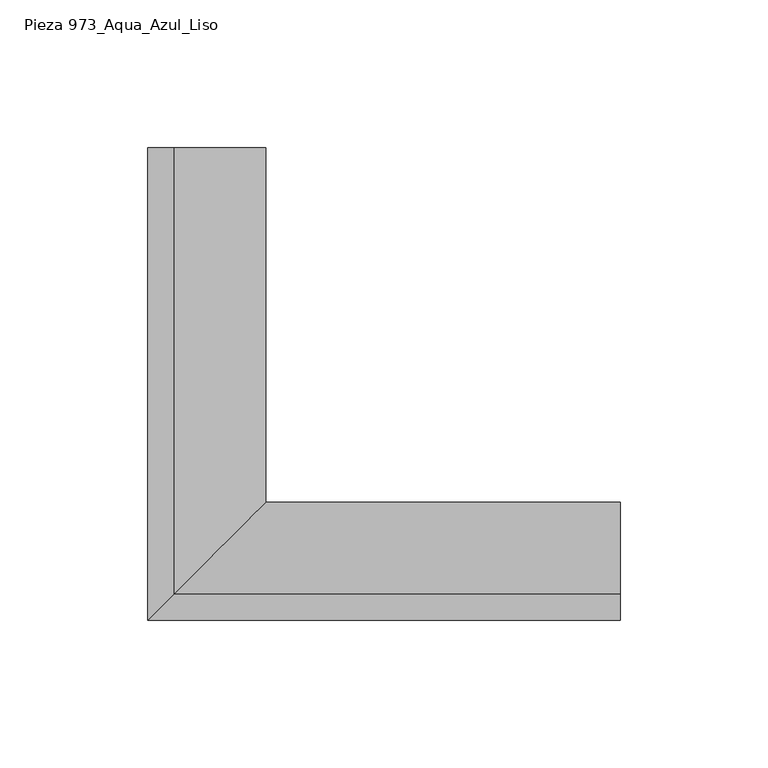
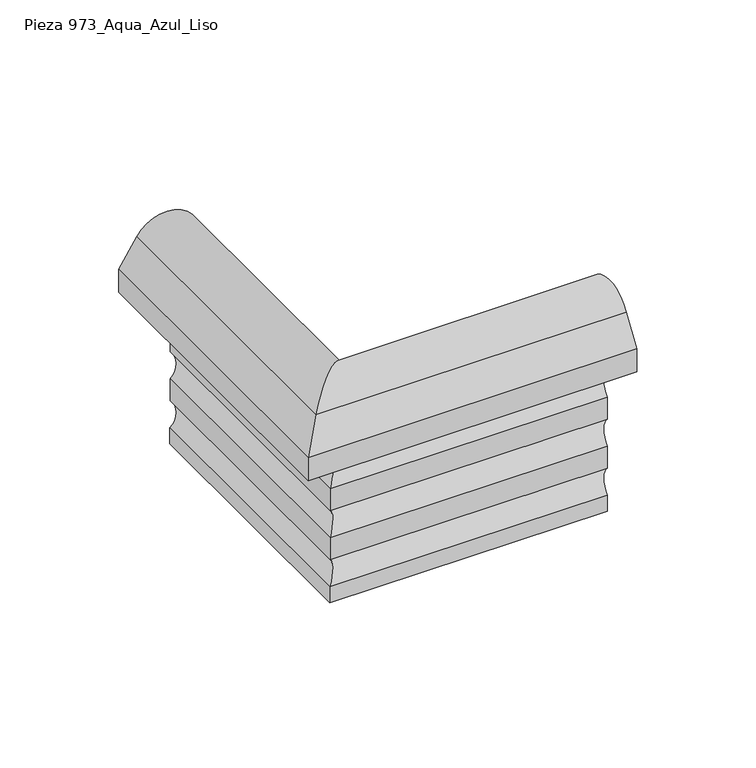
"""IFC4 building model written with IfcOpenShell, lengths in millimetres: proxy geometry, ROSA GRES_973 : Pieza 973_Aqua_Azul_Liso."""

from ifc_helpers import new_model, si_unit, frame, origin, place, context, project, spatial, polyline, circle_curve, ellipse_curve, source, transform, mapped, element, save
from ifc_brep_helpers import plane_surface, cylinder_surface, revolved_surface, advanced_brep


def pieza_973_aqua_azul_liso_c06e4f9d(model_context):
    return source(origin(), model_context, "Body", "AdvancedBrep", [
        advanced_brep(
        [(0.0, 120.0, 146.1331033), (0.0, 120.0, 44.0250913), (-2.68, 120.0, 41.3450913), (-15.0062809, 120.0, 41.3450913), (-15.0062809, 120.0, 49.6275439), (-14.9614723, 120.0, 63.5120982), (-14.9614723, 120.0, 74.8171516), (-14.9166636, 120.0, 88.7017059), (-14.9166636, 120.0, 100.0067593), (-14.3481673, 120.0, 113.5290116), (-14.3481673, 120.0, 136.0931579), (-22.7114874, 120.0, 137.4414839), (-28.5599154, 120.0, 128.1510212), (-39.9975962, 120.0, 128.1510212), (-39.9975962, 120.0, 139.9882747), (-31.1851409, 120.0, 153.6242825), (120.0, 0.0503501, 146.1331033), (120.0, -31.1347907, 153.6242825), (120.0, -39.9472461, 139.9882747), (120.0, -39.9472461, 128.1510212), (120.0, -28.5095652, 128.1510212), (120.0, -22.6611372, 137.4414839), (120.0, -14.2978171, 136.0931579), (120.0, -14.2978171, 113.5290116), (120.0, -14.8663135, 100.0067593), (120.0, -14.8663135, 88.7017059), (120.0, -14.9111221, 74.8171516), (120.0, -14.9111221, 63.5120982), (120.0, -14.9559307, 49.6275439), (120.0, -14.9559307, 41.3450913), (120.0, -2.6296499, 41.3450913), (120.0, 0.0503501, 44.0250913), (0.0, 0.0503501, 146.1331033), (0.0, 0.0503501, 44.0250913), (-2.68, -2.6296499, 41.3450913), (-15.0062809, -14.9559307, 41.3450913), (-15.0062809, -14.9559307, 49.6275439), (-14.9614723, -14.9111221, 63.5120982), (-14.9614723, -14.9111221, 74.8171516), (-14.9166636, -14.8663135, 88.7017059), (-14.9166636, -14.8663135, 100.0067593), (-14.3481673, -14.2978171, 113.5290116), (-14.3481673, -14.2978171, 136.0931579), (-22.7114874, -22.6611372, 137.4414839), (-28.5599154, -28.5095652, 128.1510212), (-39.9975962, -39.9472461, 128.1510212), (-39.9975962, -39.9472461, 139.9882747), (-31.1851409, -31.1347907, 153.6242825)],
        [
            (0, 1),
            (1, 2, circle_curve(frame((-2.68, 120.0, 44.0250913), z_axis=(0.0, 1.0, 0.0), x_axis=(-1.0, 0.0, 0.0)), 2.68)),
            (2, 3),
            (3, 4),
            (4, 5, circle_curve(frame((-21.3959123, 120.0, 56.5905141), z_axis=(0.0, -1.0, 0.0), x_axis=(-1.0, 0.0, 0.0)), 9.450415)),
            (5, 6),
            (6, 7, circle_curve(frame((-21.3511036, 120.0, 81.7801218), z_axis=(0.0, -1.0, 0.0), x_axis=(-1.0, 0.0, 0.0)), 9.450415)),
            (7, 8),
            (8, 9, circle_curve(frame((-21.3613471, 120.0, 107.0507801), z_axis=(0.0, -1.0, 0.0), x_axis=(-1.0, 0.0, 0.0)), 9.5473648)),
            (9, 10),
            (10, 11, circle_curve(frame((-18.761148, 120.0, 135.3324983), z_axis=(0.0, -1.0, 0.0), x_axis=(-1.0, 0.0, 0.0)), 4.4780578)),
            (11, 12),
            (12, 13),
            (13, 14),
            (14, 15),
            (15, 0, circle_curve(frame((-16.8529233, 120.0, 144.6319512), z_axis=(0.0, 1.0, 0.0), x_axis=(-1.0, 0.0, 0.0)), 16.9196478)),
            (16, 17, circle_curve(frame((120.0, -16.8025732, 144.6319512), z_axis=(1.0, 0.0, 0.0), x_axis=(0.0, -1.0, 0.0)), 16.9196478)),
            (17, 18),
            (18, 19),
            (19, 20),
            (20, 21),
            (21, 22, circle_curve(frame((120.0, -18.7107978, 135.3324983), z_axis=(-1.0, 0.0, 0.0), x_axis=(0.0, -1.0, 0.0)), 4.4780578)),
            (22, 23),
            (23, 24, circle_curve(frame((120.0, -21.310997, 107.0507801), z_axis=(-1.0, 0.0, 0.0), x_axis=(0.0, -1.0, 0.0)), 9.5473648)),
            (24, 25),
            (25, 26, circle_curve(frame((120.0, -21.3007535, 81.7801218), z_axis=(-1.0, 0.0, 0.0), x_axis=(0.0, -1.0, 0.0)), 9.450415)),
            (26, 27),
            (27, 28, circle_curve(frame((120.0, -21.3455621, 56.5905141), z_axis=(-1.0, 0.0, 0.0), x_axis=(0.0, -1.0, 0.0)), 9.450415)),
            (28, 29),
            (29, 30),
            (30, 31, circle_curve(frame((120.0, -2.6296499, 44.0250913), z_axis=(1.0, 0.0, 0.0), x_axis=(0.0, -1.0, 0.0)), 2.68)),
            (31, 16),
            (0, 32),
            (32, 33),
            (33, 1),
            (33, 34, ellipse_curve(frame((-2.68, -2.6296499, 44.0250913), z_axis=(-0.707106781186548, 0.7071067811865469, 0.0), x_axis=(0.7071067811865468, 0.7071067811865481, 0.0)), 3.7900923, 2.68)),
            (34, 2),
            (34, 30),
            (29, 35),
            (35, 3),
            (35, 36),
            (36, 4),
            (36, 37, ellipse_curve(frame((-21.3959123, -21.3455621, 56.5905141), z_axis=(0.707106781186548, -0.7071067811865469, 0.0), x_axis=(-0.7071067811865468, -0.7071067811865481, 0.0)), 13.3649051, 9.450415)),
            (37, 5),
            (37, 38),
            (38, 6),
            (38, 39, ellipse_curve(frame((-21.3511036, -21.3007535, 81.7801218), z_axis=(0.707106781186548, -0.7071067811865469, 0.0), x_axis=(-0.7071067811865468, -0.7071067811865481, 0.0)), 13.3649051, 9.450415)),
            (39, 7),
            (39, 40),
            (40, 8),
            (40, 41, ellipse_curve(frame((-21.3613471, -21.310997, 107.0507801), z_axis=(0.707106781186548, -0.7071067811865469, 0.0), x_axis=(-0.7071067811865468, -0.7071067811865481, 0.0)), 13.5020128, 9.5473648)),
            (41, 9),
            (41, 42),
            (42, 10),
            (42, 43, ellipse_curve(frame((-18.761148, -18.7107978, 135.3324983), z_axis=(0.707106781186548, -0.7071067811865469, 0.0), x_axis=(-0.7071067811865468, -0.7071067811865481, 0.0)), 6.3329301, 4.4780578)),
            (43, 11),
            (43, 44),
            (44, 12),
            (44, 20),
            (19, 45),
            (45, 13),
            (45, 46),
            (46, 14),
            (46, 47),
            (47, 15),
            (47, 32, ellipse_curve(frame((-16.8529233, -16.8025732, 144.6319512), z_axis=(-0.707106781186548, 0.7071067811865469, 0.0), x_axis=(0.7071067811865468, 0.7071067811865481, 0.0)), 23.9279954, 16.9196478)),
            (32, 16),
            (31, 33),
            (28, 36),
            (27, 37),
            (26, 38),
            (25, 39),
            (24, 40),
            (23, 41),
            (22, 42),
            (21, 43),
            (18, 46),
            (17, 47),
        ],
        [
            plane_surface(frame((-0.0503501, 120.0, 0.0), z_axis=(0.0, 1.0, 0.0), x_axis=(0.0, 0.0, 1.0))),
            plane_surface(frame((120.0, 0.0, 0.0), z_axis=(1.0, 0.0, 0.0), x_axis=(0.0, 0.0, 1.0))),
            plane_surface(frame((0.0, 120.0, 146.1331033), z_axis=(1.0, 0.0, 0.0), x_axis=(0.0, -1.0, 0.0))),
            cylinder_surface(frame((-2.68, 120.0, 44.0250913), z_axis=(0.0, 1.0, 0.0), x_axis=(-1.0, 0.0, 0.0)), 2.68),
            plane_surface(frame((-2.68, 120.0, 41.3450913), z_axis=(0.0, 0.0, -1.0), x_axis=(0.0, -1.0, 0.0))),
            plane_surface(frame((-15.0062809, 120.0, 41.3450913), z_axis=(-1.0, 0.0, 0.0), x_axis=(0.0, -1.0, 0.0))),
            revolved_surface(polyline([(-30.8463273, -30.795977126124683, 56.5905141), (-30.8463273, 120.0, 56.5905141)]), (-21.3959123, 120.0, 56.5905141), (0.0, -1.0, 0.0)),
            plane_surface(frame((-14.9614723, 120.0, 63.5120982), z_axis=(-1.0, 0.0, 0.0), x_axis=(0.0, -1.0, 0.0))),
            revolved_surface(polyline([(-30.801518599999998, -30.751168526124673, 81.7801218), (-30.801518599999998, 120.0, 81.7801218)]), (-21.3511036, 120.0, 81.7801218), (0.0, -1.0, 0.0)),
            plane_surface(frame((-14.9166636, 120.0, 88.7017059), z_axis=(-1.0, 0.0, 0.0), x_axis=(0.0, -1.0, 0.0))),
            revolved_surface(polyline([(-30.9087119, -30.858361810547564, 107.0507801), (-30.9087119, 120.0, 107.0507801)]), (-21.3613471, 120.0, 107.0507801), (0.0, -1.0, 0.0)),
            plane_surface(frame((-14.3481673, 120.0, 113.5290116), z_axis=(-1.0, 0.0, 0.0), x_axis=(0.0, -1.0, 0.0))),
            revolved_surface(polyline([(-23.2392058, -23.188855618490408, 135.3324983), (-23.2392058, 120.0, 135.3324983)]), (-18.761148, 120.0, 135.3324983), (0.0, -1.0, 0.0)),
            plane_surface(frame((-22.7114874, 120.0, 137.4414839), z_axis=(0.8462789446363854, 0.0, -0.5327400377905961), x_axis=(0.0, -1.0, 0.0))),
            plane_surface(frame((-28.5599154, 120.0, 128.1510212), z_axis=(0.0, 0.0, -1.0), x_axis=(0.0, -1.0, 0.0))),
            plane_surface(frame((-39.9975962, 120.0, 128.1510212), z_axis=(-1.0, 0.0, 0.0), x_axis=(0.0, -1.0, 0.0))),
            plane_surface(frame((-39.9975962, 120.0, 139.9882747), z_axis=(-0.83987465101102, 0.0, 0.5427804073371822), x_axis=(0.0, -1.0, 0.0))),
            cylinder_surface(frame((-16.8529233, 120.0, 144.6319512), z_axis=(0.0, 1.0, 0.0), x_axis=(-1.0, 0.0, 0.0)), 16.9196478),
            plane_surface(frame((0.0, 0.0503501, 146.1331033), z_axis=(0.0, 1.0, 0.0), x_axis=(1.0, 0.0, 0.0))),
            cylinder_surface(frame((-0.0503501, -2.6296499, 44.0250913), z_axis=(-1.0, 0.0, 0.0), x_axis=(0.0, -1.0, 0.0)), 2.68),
            plane_surface(frame((-15.0062809, -14.9559307, 41.3450913), z_axis=(0.0, -1.0, 0.0), x_axis=(1.0, 0.0, 0.0))),
            revolved_surface(polyline([(120.0, -30.795977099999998, 56.5905141), (-30.846327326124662, -30.795977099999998, 56.5905141)]), (-0.0503501, -21.3455621, 56.5905141), (1.0, 0.0, 0.0)),
            plane_surface(frame((-14.9614723, -14.9111221, 63.5120982), z_axis=(0.0, -1.0, 0.0), x_axis=(1.0, 0.0, 0.0))),
            revolved_surface(polyline([(120.0, -30.7511685, 81.7801218), (-30.80151862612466, -30.7511685, 81.7801218)]), (-0.0503501, -21.3007535, 81.7801218), (1.0, 0.0, 0.0)),
            plane_surface(frame((-14.9166636, -14.8663135, 88.7017059), z_axis=(0.0, -1.0, 0.0), x_axis=(1.0, 0.0, 0.0))),
            revolved_surface(polyline([(120.0, -30.8583618, 107.0507801), (-30.908711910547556, -30.8583618, 107.0507801)]), (-0.0503501, -21.310997, 107.0507801), (1.0, 0.0, 0.0)),
            plane_surface(frame((-14.3481673, -14.2978171, 113.5290116), z_axis=(0.0, -1.0, 0.0), x_axis=(1.0, 0.0, 0.0))),
            revolved_surface(polyline([(120.0, -23.188855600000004, 135.3324983), (-23.239205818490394, -23.188855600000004, 135.3324983)]), (-0.0503501, -18.7107978, 135.3324983), (1.0, 0.0, 0.0)),
            plane_surface(frame((-22.7114874, -22.6611372, 137.4414839), z_axis=(0.0, 0.8462789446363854, -0.5327400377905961), x_axis=(1.0, 0.0, 0.0))),
            plane_surface(frame((-39.9975962, -39.9472461, 128.1510212), z_axis=(0.0, -1.0, 0.0), x_axis=(1.0, 0.0, 0.0))),
            plane_surface(frame((-39.9975962, -39.9472461, 139.9882747), z_axis=(0.0, -0.83987465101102, 0.5427804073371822), x_axis=(1.0, 0.0, 0.0))),
            cylinder_surface(frame((-0.0503501, -16.8025732, 144.6319512), z_axis=(-1.0, 0.0, 0.0), x_axis=(0.0, -1.0, 0.0)), 16.9196478),
        ],
        [
            (0, [[1, 2, 3, 4, 5, 6, 7, 8, 9, 10, 11, 12, 13, 14, 15, 16]]),
            (1, [[17, 18, 19, 20, 21, 22, 23, 24, 25, 26, 27, 28, 29, 30, 31, 32]]),
            (2, [[-1, 33, 34, 35]]),
            (3, [[-2, -35, 36, 37]]),
            (4, [[-3, -37, 38, -30, 39, 40]]),
            (5, [[-4, -40, 41, 42]]),
            (6, [[-5, -42, 43, 44]]),
            (7, [[-6, -44, 45, 46]]),
            (8, [[-7, -46, 47, 48]]),
            (9, [[-8, -48, 49, 50]]),
            (10, [[-9, -50, 51, 52]]),
            (11, [[-10, -52, 53, 54]]),
            (12, [[-11, -54, 55, 56]]),
            (13, [[-12, -56, 57, 58]]),
            (14, [[-13, -58, 59, -20, 60, 61]]),
            (15, [[-14, -61, 62, 63]]),
            (16, [[-15, -63, 64, 65]]),
            (17, [[-16, -65, 66, -33]]),
            (18, [[-34, 67, -32, 68]]),
            (19, [[-36, -68, -31, -38]]),
            (20, [[-41, -39, -29, 69]]),
            (21, [[-43, -69, -28, 70]]),
            (22, [[-45, -70, -27, 71]]),
            (23, [[-47, -71, -26, 72]]),
            (24, [[-49, -72, -25, 73]]),
            (25, [[-51, -73, -24, 74]]),
            (26, [[-53, -74, -23, 75]]),
            (27, [[-55, -75, -22, 76]]),
            (28, [[-57, -76, -21, -59]]),
            (29, [[-62, -60, -19, 77]]),
            (30, [[-64, -77, -18, 78]]),
            (31, [[-66, -78, -17, -67]]),
        ],
    ),
    ])


if __name__ == "__main__":
    model = new_model("IFC4")
    model_context = context("Model", 3, world=origin())
    ifc_project = project(units=[si_unit("LENGTHUNIT", "METRE", prefix="MILLI")], contexts=[model_context])
    site = spatial("IfcSite", under=ifc_project)
    building = spatial("IfcBuilding", under=site)
    placement = place(None, origin())
    pieza_973_aqua_azul_liso_shape = pieza_973_aqua_azul_liso_c06e4f9d(model_context)
    element("IfcBuildingElementProxy", 1, Name="ROSA GRES_973 : Pieza 973_Aqua_Azul_Liso", ObjectType="ROSA GRES_973 : Pieza 973_Aqua_Azul_Liso", at=placement, inside=building, context=model_context, shape_type="MappedRepresentation", body=[
        mapped(pieza_973_aqua_azul_liso_shape, transform((0.0, 0.0, 0.0), x_axis=(1.0, 0.0, 0.0), y_axis=(0.0, 1.0, 0.0), z_axis=(0.0, 0.0, 1.0))),
    ])
    save(model, "model.ifc")
